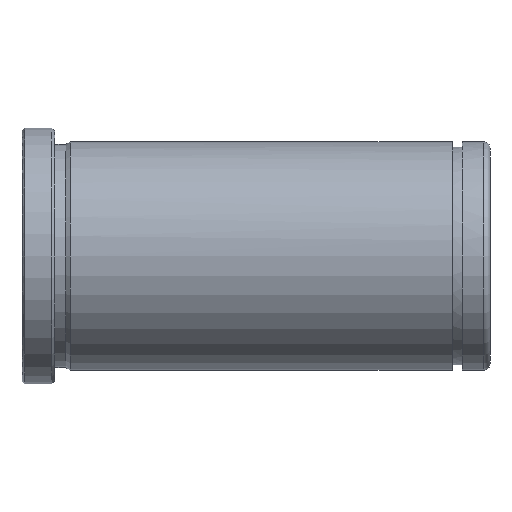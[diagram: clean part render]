
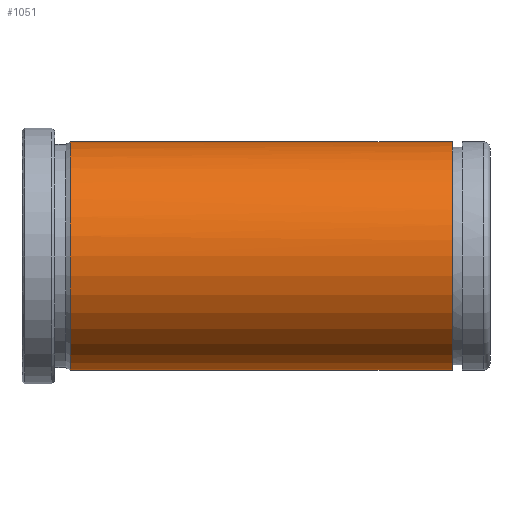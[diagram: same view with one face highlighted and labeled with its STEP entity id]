
A CAD part, front view. The second image highlights one B-rep face of the part: STEP entity #1051.
In plain terms, the highlighted cylindrical face has radius 21 mm (diameter 42 mm), a partial arc.
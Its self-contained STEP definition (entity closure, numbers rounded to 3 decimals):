
#851=CARTESIAN_POINT('Vertex',(8.866,0.,-21.)) ;
#858=CARTESIAN_POINT('Vertex',(8.866,0.,21.)) ;
#887=CARTESIAN_POINT('Axis2P3D Location',(8.866,0.,0.)) ;
#891=CARTESIAN_POINT('Vertex',(8.866,-21.,0.)) ;
#894=CARTESIAN_POINT('Axis2P3D Location',(8.866,0.,0.)) ;
#985=CARTESIAN_POINT('Line Origine',(172.,0.,21.)) ;
#989=CARTESIAN_POINT('Vertex',(79.05,0.,21.)) ;
#1006=CARTESIAN_POINT('Vertex',(79.05,0.,-21.)) ;
#1009=CARTESIAN_POINT('Line Origine',(172.,0.,-21.)) ;
#1023=CARTESIAN_POINT('Axis2P3D Location',(172.,0.,0.)) ;
#1028=CARTESIAN_POINT('Axis2P3D Location',(79.05,0.,0.)) ;
#1032=CARTESIAN_POINT('Vertex',(79.05,-21.,0.)) ;
#1036=CARTESIAN_POINT('Control Point',(79.05,0.,21.)) ;
#1037=CARTESIAN_POINT('Control Point',(79.05,-6.597,21.)) ;
#1038=CARTESIAN_POINT('Control Point',(79.05,-13.201,18.417)) ;
#1039=CARTESIAN_POINT('Control Point',(79.05,-18.417,13.201)) ;
#1040=CARTESIAN_POINT('Control Point',(79.05,-21.,6.597)) ;
#1041=CARTESIAN_POINT('Control Point',(79.05,-21.,0.)) ;
#888=DIRECTION('Axis2P3D Direction',(1.,0.,-0.)) ;
#895=DIRECTION('Axis2P3D Direction',(1.,0.,-0.)) ;
#986=DIRECTION('Vector Direction',(-1.,0.,0.)) ;
#1010=DIRECTION('Vector Direction',(-1.,0.,0.)) ;
#1024=DIRECTION('Axis2P3D Direction',(-1.,-0.,-0.)) ;
#1025=DIRECTION('Axis2P3D XDirection',(0.,0.,-1.)) ;
#1029=DIRECTION('Axis2P3D Direction',(-1.,-0.,-0.)) ;
#889=AXIS2_PLACEMENT_3D('Circle Axis2P3D',#887,#888,$) ;
#896=AXIS2_PLACEMENT_3D('Circle Axis2P3D',#894,#895,$) ;
#1026=AXIS2_PLACEMENT_3D('Cylinder Axis2P3D',#1023,#1024,#1025) ;
#1030=AXIS2_PLACEMENT_3D('Circle Axis2P3D',#1028,#1029,$) ;
#1044=ORIENTED_EDGE('',*,*,#1013,.T.) ;
#1045=ORIENTED_EDGE('',*,*,#1034,.F.) ;
#1046=ORIENTED_EDGE('',*,*,#1042,.F.) ;
#1047=ORIENTED_EDGE('',*,*,#991,.T.) ;
#1048=ORIENTED_EDGE('',*,*,#898,.T.) ;
#1049=ORIENTED_EDGE('',*,*,#893,.T.) ;
#987=VECTOR('Line Direction',#986,1.) ;
#1011=VECTOR('Line Direction',#1010,1.) ;
#1051=ADVANCED_FACE('553-30X86',(#1050),#1027,.T.) ;
#1035=B_SPLINE_CURVE_WITH_KNOTS('',5,(#1036,#1037,#1038,#1039,#1040,#1041),.UNSPECIFIED.,.F.,.U.,(6,6),(-16.493,16.493),.UNSPECIFIED.) ;
#890=CIRCLE('generated circle',#889,21.) ;
#897=CIRCLE('generated circle',#896,21.) ;
#1031=CIRCLE('generated circle',#1030,21.) ;
#1027=CYLINDRICAL_SURFACE('generated cylinder',#1026,21.) ;
#893=EDGE_CURVE('',#892,#852,#890,.T.) ;
#898=EDGE_CURVE('',#859,#892,#897,.T.) ;
#991=EDGE_CURVE('',#990,#859,#988,.T.) ;
#1013=EDGE_CURVE('',#852,#1007,#1012,.F.) ;
#1034=EDGE_CURVE('',#1033,#1007,#1031,.F.) ;
#1042=EDGE_CURVE('',#990,#1033,#1035,.T.) ;
#1043=EDGE_LOOP('',(#1044,#1045,#1046,#1047,#1048,#1049)) ;
#1050=FACE_OUTER_BOUND('',#1043,.T.) ;
#988=LINE('Line',#985,#987) ;
#1012=LINE('Line',#1009,#1011) ;
#852=VERTEX_POINT('',#851) ;
#859=VERTEX_POINT('',#858) ;
#892=VERTEX_POINT('',#891) ;
#990=VERTEX_POINT('',#989) ;
#1007=VERTEX_POINT('',#1006) ;
#1033=VERTEX_POINT('',#1032) ;
